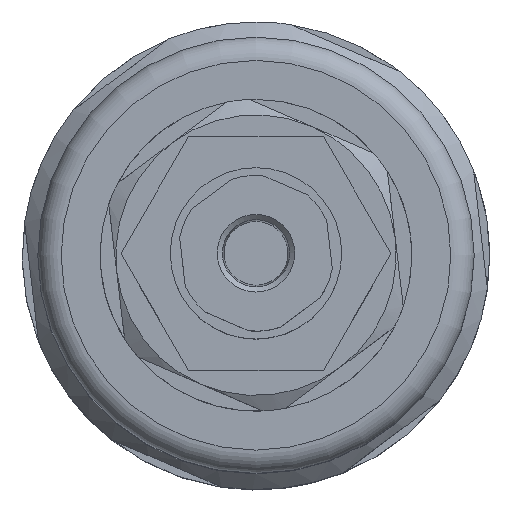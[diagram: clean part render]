
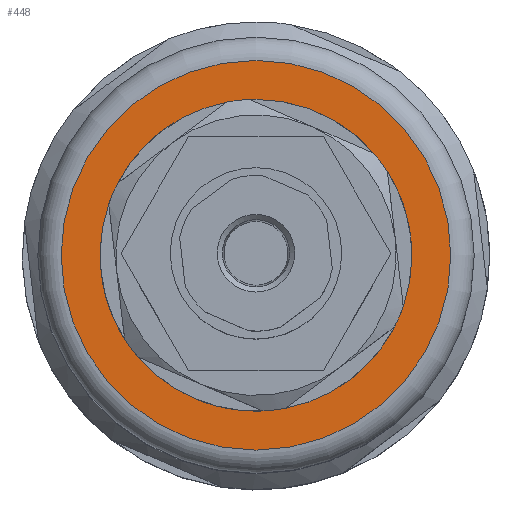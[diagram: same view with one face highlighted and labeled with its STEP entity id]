
A CAD part, top view. The second image highlights one B-rep face of the part: STEP entity #448.
In plain terms, the highlighted planar face has unit normal (0, 0, 1).
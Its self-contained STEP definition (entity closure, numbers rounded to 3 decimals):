
#448=ADVANCED_FACE('',(#623,#624),#625,.T.);
#623=FACE_BOUND('',#884,.T.);
#624=FACE_OUTER_BOUND('',#885,.T.);
#625=PLANE('',#886);
#884=EDGE_LOOP('',(#1339));
#885=EDGE_LOOP('',(#1340));
#886=AXIS2_PLACEMENT_3D('',#1341,#1342,#1343);
#1339=ORIENTED_EDGE('',*,*,#1971,.T.);
#1340=ORIENTED_EDGE('',*,*,#1972,.F.);
#1341=CARTESIAN_POINT('',(25.0,0.,70.7));
#1342=DIRECTION('',(0.0,0.,1.0));
#1343=DIRECTION('',(0.0,-1.0,0.));
#1971=EDGE_CURVE('',#2305,#2305,#2306,.T.);
#1972=EDGE_CURVE('',#2307,#2307,#2308,.T.);
#2305=VERTEX_POINT('',#2829);
#2306=CIRCLE('',#2830,20.0);
#2307=VERTEX_POINT('',#2831);
#2308=CIRCLE('',#2832,25.0);
#2829=CARTESIAN_POINT('',(0.0,20.0,70.7));
#2830=AXIS2_PLACEMENT_3D('',#3354,#3355,#3356);
#2831=CARTESIAN_POINT('',(0.0,25.0,70.7));
#2832=AXIS2_PLACEMENT_3D('',#3357,#3358,#3359);
#3354=CARTESIAN_POINT('',(0.0,0.,70.7));
#3355=DIRECTION('',(0.0,0.,-1.0));
#3356=DIRECTION('',(0.0,1.0,0.));
#3357=CARTESIAN_POINT('',(0.0,0.,70.7));
#3358=DIRECTION('',(0.0,0.,-1.0));
#3359=DIRECTION('',(0.0,1.0,0.));
